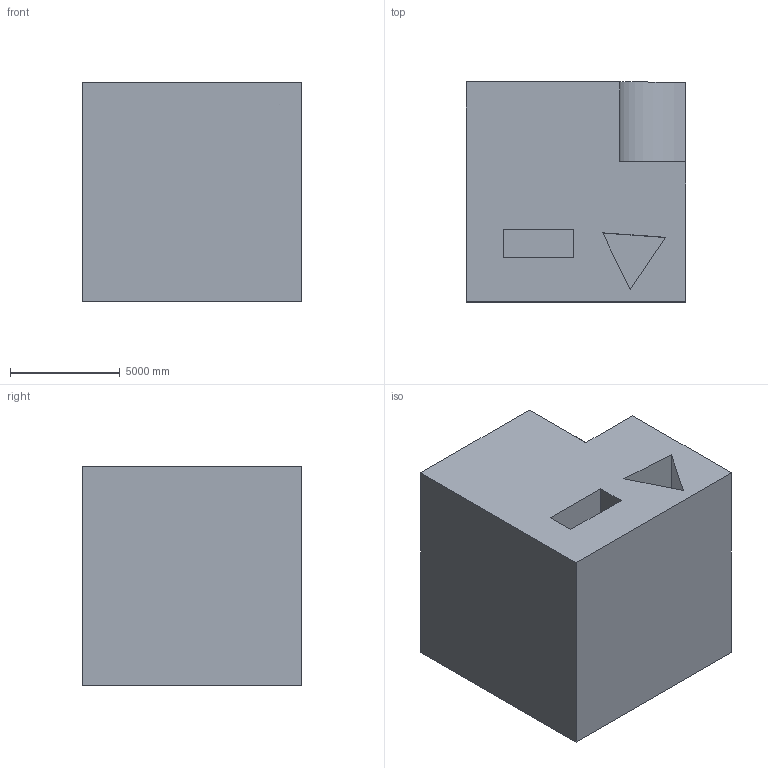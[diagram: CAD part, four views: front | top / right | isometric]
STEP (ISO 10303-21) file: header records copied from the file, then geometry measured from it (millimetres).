
FILE_DESCRIPTION (( 'STEP AP203' ), '1' );
FILE_NAME ('46.STEP', '2022-08-31T11:16:40', ( 'user' ), ( '' ), 'SwSTEP 2.0', 'SolidWorks 2021', '' );
FILE_SCHEMA (( 'CONFIG_CONTROL_DESIGN' ));
Length unit declared in the file: centimetre
Products named in the file (1): 46
Bounding box: 10000 x 10000 x 10000 mm (x, y, z)
Volume: 930473797038 mm3; surface area: 695230625.5 mm2
Topology: 1 solids, 1 shells, 17 faces, 39 edges, 26 vertices
Faces by surface type: plane 16, cylinder 1
Entity records: 552 total; most frequent: CARTESIAN_POINT 83, ORIENTED_EDGE 78, DIRECTION 77, EDGE_CURVE 39, LINE 37, VECTOR 37, VERTEX_POINT 26, AXIS2_PLACEMENT_3D 20
